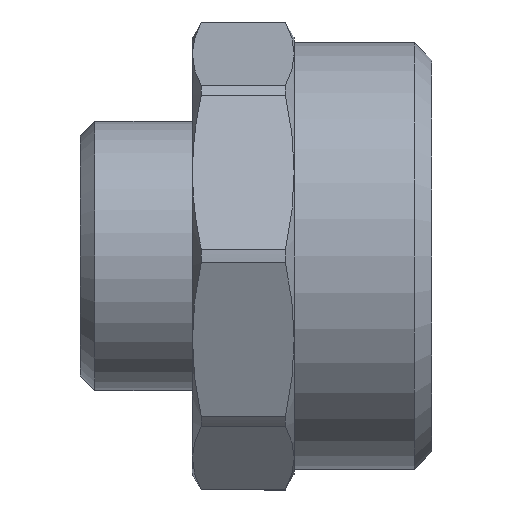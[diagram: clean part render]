
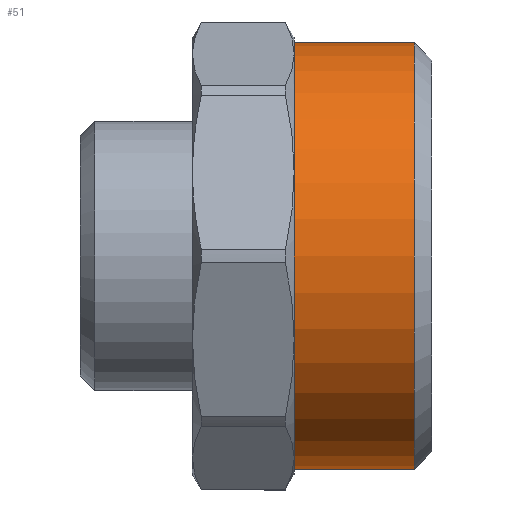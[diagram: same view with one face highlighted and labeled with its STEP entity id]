
A CAD part, left-side view. The second image highlights one B-rep face of the part: STEP entity #51.
In plain terms, the highlighted cylindrical face has radius 20.955 mm (diameter 41.91 mm), a full revolution.
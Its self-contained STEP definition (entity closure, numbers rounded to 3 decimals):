
#51=ADVANCED_FACE('',(#148,#150),#152,.T.);
#148=FACE_OUTER_BOUND('',#149,.T.);
#149=EDGE_LOOP('',(#414));
#150=FACE_OUTER_BOUND('',#151,.T.);
#151=EDGE_LOOP('',(#415));
#152=CYLINDRICAL_SURFACE('',#153,20.955);
#153=AXIS2_PLACEMENT_3D('',#154,#155,#156);
#154=CARTESIAN_POINT('',(0.,-5.,0.));
#155=DIRECTION('',(0.,-1.,0.));
#156=DIRECTION('',(1.,0.,0.));
#414=ORIENTED_EDGE('',*,*,#577,.T.);
#415=ORIENTED_EDGE('',*,*,#575,.F.);
#575=EDGE_CURVE('',#667,#667,#668,.T.);
#577=EDGE_CURVE('',#671,#671,#672,.T.);
#667=VERTEX_POINT('',#833);
#668=CIRCLE('',#834,20.955);
#671=VERTEX_POINT('',#843);
#672=CIRCLE('',#844,20.955);
#833=CARTESIAN_POINT('',(20.955,-16.8,0.));
#834=AXIS2_PLACEMENT_3D('',#835,#836,#837);
#835=CARTESIAN_POINT('',(0.,-16.8,0.));
#836=DIRECTION('',(0.,-1.,0.));
#837=DIRECTION('',(1.,0.,0.));
#843=CARTESIAN_POINT('',(20.955,-5.,0.));
#844=AXIS2_PLACEMENT_3D('',#845,#846,#847);
#845=CARTESIAN_POINT('',(0.,-5.,0.));
#846=DIRECTION('',(0.,-1.,0.));
#847=DIRECTION('',(1.,0.,0.));
